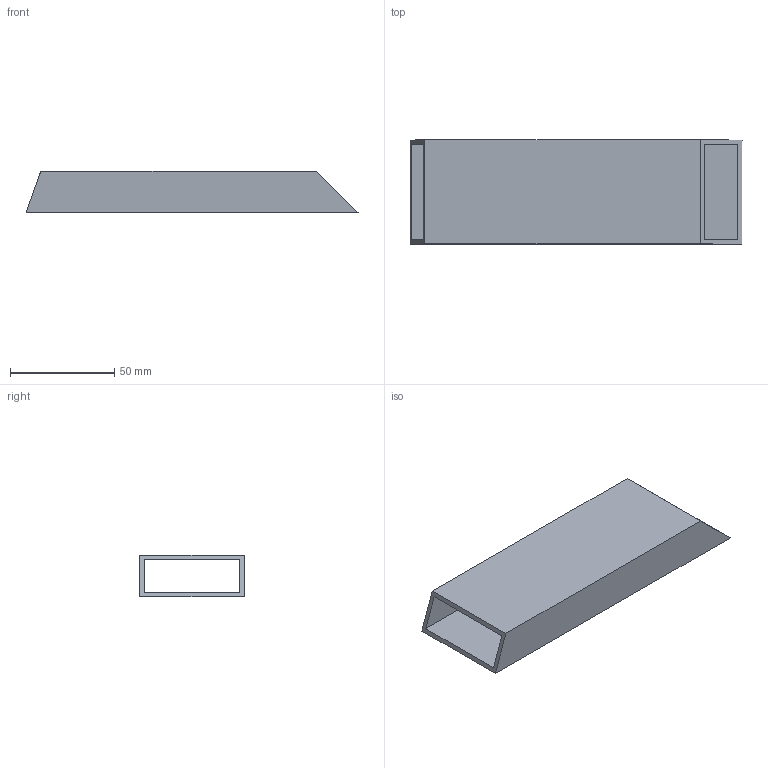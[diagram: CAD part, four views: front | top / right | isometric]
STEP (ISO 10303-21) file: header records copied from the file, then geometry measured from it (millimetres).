
FILE_DESCRIPTION(/* description */ (''),/* implementation_level */ '2;1');
FILE_NAME(/* name */ 'Pos131-Koker 50x20x2 EN 10219-2-S235JRH-1st',/* time_stamp */ '2024-08-06T13:49:48+02:00',/* author */ (''),/* organization */ (''),/* preprocessor_version */ 'ST-DEVELOPER v16.5',/* originating_system */ 'HiCAD 2024 2901.2 Build 361',/* authorisation */ '');
FILE_SCHEMA (('AUTOMOTIVE_DESIGN { 1 0 10303 214 1 1 1 1 }'));
Length unit declared in the file: millimetre
Products named in the file (1): Pos131-Koker 50x20x2 EN 10219-2-S235JRH-1st
Bounding box: 159.57 x 50 x 20 mm (x, y, z)
Volume: 38551.4 mm3; surface area: 39204.8 mm2
Topology: 1 solids, 1 shells, 10 faces, 24 edges, 16 vertices
Faces by surface type: plane 10
Entity records: 550 total; most frequent: CARTESIAN_POINT 50, PRESENTATION_STYLE_ASSIGNMENT 49, COLOUR_RGB 49, DRAUGHTING_PRE_DEFINED_CURVE_FONT 48, CURVE_STYLE 48, OVER_RIDING_STYLED_ITEM 48, ORIENTED_EDGE 48, DIRECTION 44
